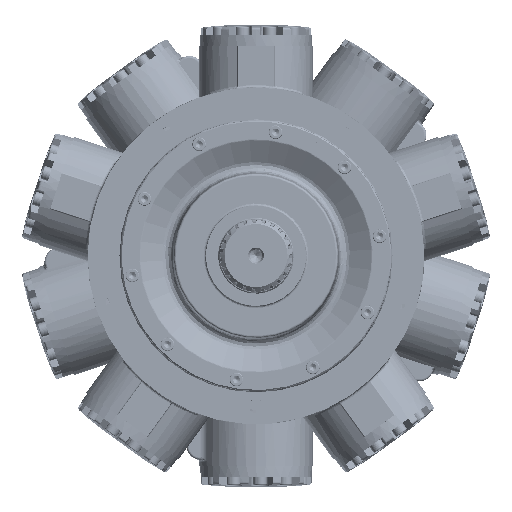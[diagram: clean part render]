
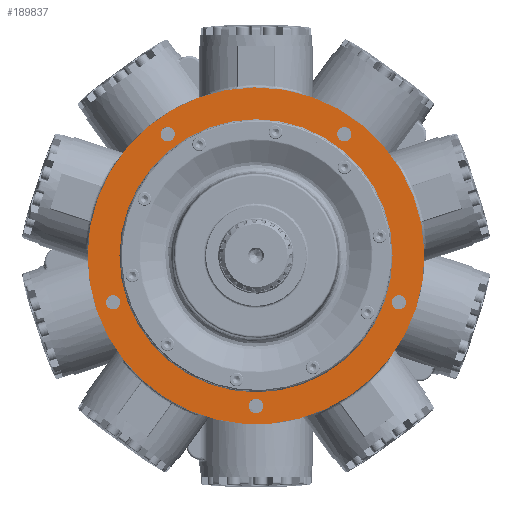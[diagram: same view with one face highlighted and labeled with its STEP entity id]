
A CAD part, top view. The second image highlights one B-rep face of the part: STEP entity #189837.
In plain terms, the highlighted planar face has unit normal (0, 0, 1).
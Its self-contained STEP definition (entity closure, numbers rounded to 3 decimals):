
#181303=CARTESIAN_POINT('',(-234.95,0.,4.826));
#181304=VERTEX_POINT('',#181303);
#181305=CARTESIAN_POINT('',(0.0,0.0,4.826));
#181306=DIRECTION('',(0.0,0.0,-1.0));
#181307=DIRECTION('',(1.0,0.0,0.0));
#181308=AXIS2_PLACEMENT_3D('',#181305,#181306,#181307);
#181309=CIRCLE('',#181308,234.95);
#181310=EDGE_CURVE('',#181304,#181304,#181309,.T.);
#189763=CARTESIAN_POINT('',(213.169,0.0,4.826));
#189764=DIRECTION('',(0.0,0.0,-1.0));
#189765=DIRECTION('',(-1.0,0.0,0.0));
#189766=AXIS2_PLACEMENT_3D('',#189763,#189764,#189765);
#189767=PLANE('',#189766);
#189768=ORIENTED_EDGE('',*,*,#181310,.F.);
#189769=EDGE_LOOP('',(#189768));
#189770=FACE_OUTER_BOUND('',#189769,.T.);
#189771=CARTESIAN_POINT('',(-196.204,-74.265,4.826));
#189772=VERTEX_POINT('',#189771);
#189773=CARTESIAN_POINT('',(-199.294,-64.755,4.826));
#189774=DIRECTION('',(0.0,0.0,-1.0));
#189775=DIRECTION('',(0.309,-0.951,0.0));
#189776=AXIS2_PLACEMENT_3D('',#189773,#189774,#189775);
#189777=CIRCLE('',#189776,10.);
#189778=EDGE_CURVE('',#189772,#189772,#189777,.T.);
#189779=ORIENTED_EDGE('',*,*,#189778,.T.);
#189780=EDGE_LOOP('',(#189779));
#189781=FACE_BOUND('',#189780,.T.);
#189782=CARTESIAN_POINT('',(-131.261,163.652,4.826));
#189783=VERTEX_POINT('',#189782);
#189784=CARTESIAN_POINT('',(-123.17,169.53,4.826));
#189785=DIRECTION('',(0.0,0.0,-1.));
#189786=DIRECTION('',(-0.809,-0.588,0.0));
#189787=AXIS2_PLACEMENT_3D('',#189784,#189785,#189786);
#189788=CIRCLE('',#189787,10.0);
#189789=EDGE_CURVE('',#189783,#189783,#189788,.T.);
#189790=ORIENTED_EDGE('',*,*,#189789,.T.);
#189791=EDGE_LOOP('',(#189790));
#189792=FACE_BOUND('',#189791,.T.);
#189793=CARTESIAN_POINT('',(115.08,175.407,4.826));
#189794=VERTEX_POINT('',#189793);
#189795=CARTESIAN_POINT('',(123.17,169.53,4.826));
#189796=DIRECTION('',(0.0,0.0,-1.0));
#189797=DIRECTION('',(-0.809,0.588,0.0));
#189798=AXIS2_PLACEMENT_3D('',#189795,#189796,#189797);
#189799=CIRCLE('',#189798,10.);
#189800=EDGE_CURVE('',#189794,#189794,#189799,.T.);
#189801=ORIENTED_EDGE('',*,*,#189800,.T.);
#189802=EDGE_LOOP('',(#189801));
#189803=FACE_BOUND('',#189802,.T.);
#189804=CARTESIAN_POINT('',(202.384,-55.244,4.826));
#189805=VERTEX_POINT('',#189804);
#189806=CARTESIAN_POINT('',(199.294,-64.755,4.826));
#189807=DIRECTION('',(0.0,0.0,-1.));
#189808=DIRECTION('',(0.309,0.951,0.0));
#189809=AXIS2_PLACEMENT_3D('',#189806,#189807,#189808);
#189810=CIRCLE('',#189809,10.0);
#189811=EDGE_CURVE('',#189805,#189805,#189810,.T.);
#189812=ORIENTED_EDGE('',*,*,#189811,.T.);
#189813=EDGE_LOOP('',(#189812));
#189814=FACE_BOUND('',#189813,.T.);
#189815=CARTESIAN_POINT('',(10.,-209.55,4.826));
#189816=VERTEX_POINT('',#189815);
#189817=CARTESIAN_POINT('',(0.,-209.55,4.826));
#189818=DIRECTION('',(0.0,0.0,-1.0));
#189819=DIRECTION('',(1.0,0.0,0.0));
#189820=AXIS2_PLACEMENT_3D('',#189817,#189818,#189819);
#189821=CIRCLE('',#189820,10.0);
#189822=EDGE_CURVE('',#189816,#189816,#189821,.T.);
#189823=ORIENTED_EDGE('',*,*,#189822,.T.);
#189824=EDGE_LOOP('',(#189823));
#189825=FACE_BOUND('',#189824,.T.);
#189826=CARTESIAN_POINT('',(190.456,0.0,4.826));
#189827=VERTEX_POINT('',#189826);
#189828=CARTESIAN_POINT('',(0.0,0.0,4.826));
#189829=DIRECTION('',(0.0,0.0,-1.0));
#189830=DIRECTION('',(1.0,0.0,0.0));
#189831=AXIS2_PLACEMENT_3D('',#189828,#189829,#189830);
#189832=CIRCLE('',#189831,190.456);
#189833=EDGE_CURVE('',#189827,#189827,#189832,.T.);
#189834=ORIENTED_EDGE('',*,*,#189833,.T.);
#189835=EDGE_LOOP('',(#189834));
#189836=FACE_BOUND('',#189835,.T.);
#189837=ADVANCED_FACE('',(#189770,#189781,#189792,#189803,#189814,#189825,#189836),#189767,.F.);
